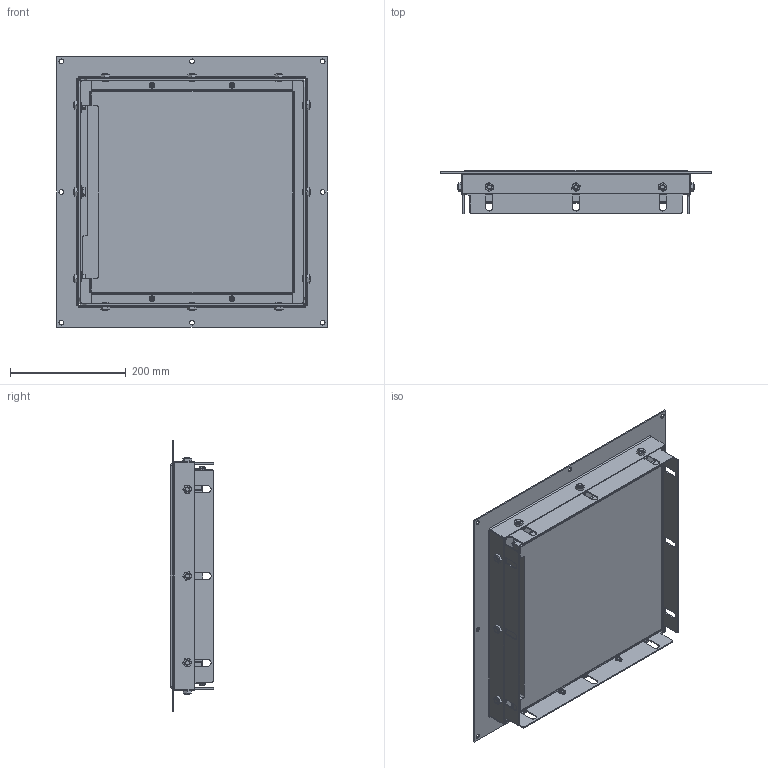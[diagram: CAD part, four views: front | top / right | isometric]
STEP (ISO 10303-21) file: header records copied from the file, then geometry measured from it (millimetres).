
FILE_DESCRIPTION (( 'STEP AP214' ), '1' );
FILE_NAME ('MS-IR-10-E_123259.STEP', '2019-02-13T09:17:31', ( '' ), ( '' ), 'SwSTEP 2.0', 'SolidWorks 2018', '' );
FILE_SCHEMA (( 'AUTOMOTIVE_DESIGN' ));
Length unit declared in the file: millimetre
Products named in the file (1): MS-IR-10-E_123259
Bounding box: 468 x 74.4 x 468 mm (x, y, z)
Volume: 7261455.1 mm3; surface area: 950274.5 mm2
Topology: 1 solids, 1 shells, 1597 faces, 4019 edges, 2392 vertices
Faces by surface type: plane 621, cylinder 588, bspline 188, cone 130, torus 70
Entity records: 60328 total; most frequent: CARTESIAN_POINT 23585, ORIENTED_EDGE 7846, DIRECTION 7327, EDGE_CURVE 3923, AXIS2_PLACEMENT_3D 2754, VERTEX_POINT 2392, VECTOR 1819, LINE 1819
